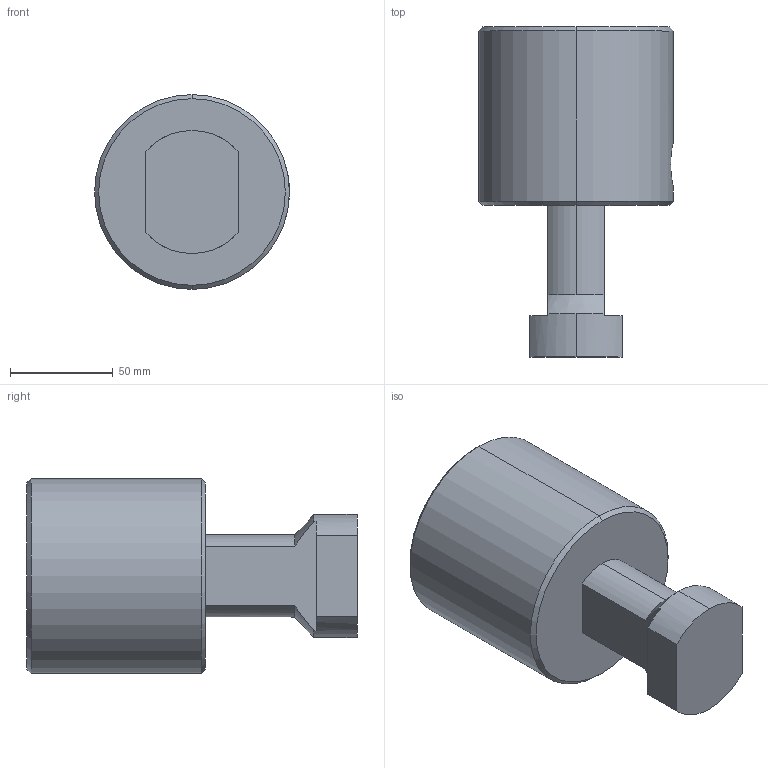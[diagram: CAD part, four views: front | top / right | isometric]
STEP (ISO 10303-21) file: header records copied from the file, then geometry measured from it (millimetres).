
FILE_DESCRIPTION (( 'STEP AP203' ), '1' );
FILE_NAME ('4650-411.STEP', '2016-01-29T10:29:36', ( '' ), ( '' ), 'SwSTEP 2.0', 'SolidWorks 2015', '' );
FILE_SCHEMA (( 'CONFIG_CONTROL_DESIGN' ));
Length unit declared in the file: millimetre
Products named in the file (1): 4650-411
Bounding box: 95 x 161 x 95 mm (x, y, z)
Volume: 718673.1 mm3; surface area: 53004 mm2
Topology: 1 solids, 1 shells, 31 faces, 75 edges, 47 vertices
Faces by surface type: cylinder 12, plane 10, cone 9
Entity records: 1087 total; most frequent: CARTESIAN_POINT 275, DIRECTION 163, ORIENTED_EDGE 146, EDGE_CURVE 73, AXIS2_PLACEMENT_3D 64, VERTEX_POINT 47, LINE 35, VECTOR 35
